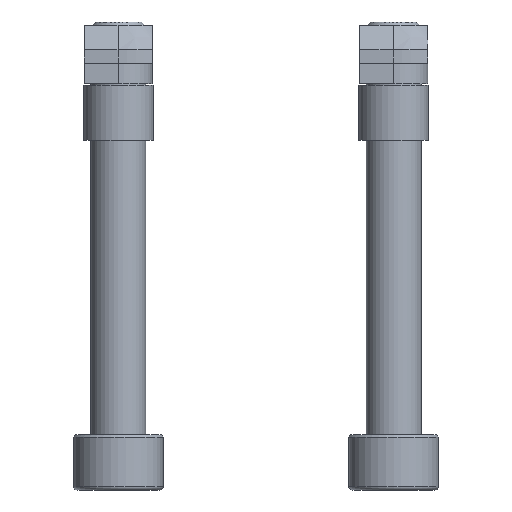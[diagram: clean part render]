
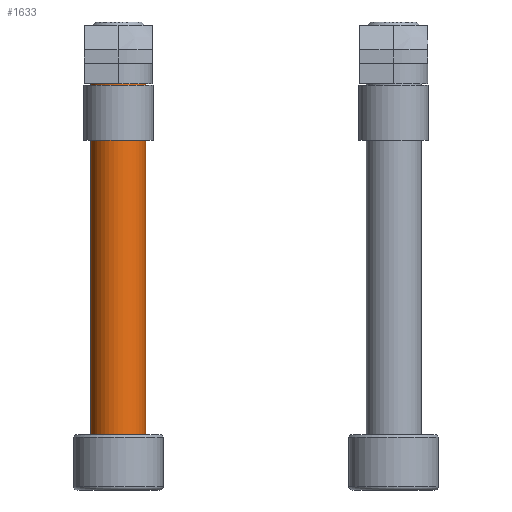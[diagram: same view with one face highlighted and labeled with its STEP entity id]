
A CAD part, front view. The second image highlights one B-rep face of the part: STEP entity #1633.
In plain terms, the highlighted cylindrical face has radius 4 mm (diameter 8 mm), a partial arc.
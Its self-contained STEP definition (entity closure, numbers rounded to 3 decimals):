
#11 = EDGE_LOOP ( 'NONE', ( #2102, #2743, #496, #1069 ) ) ;
#228 = DIRECTION ( 'NONE',  ( 0., 0., 1. ) ) ;
#307 = CARTESIAN_POINT ( 'NONE',  ( -16., 0., 3. ) ) ;
#316 = DIRECTION ( 'NONE',  ( 1., 0., 0. ) ) ;
#404 = CARTESIAN_POINT ( 'NONE',  ( -20., 0., 3. ) ) ;
#456 = CARTESIAN_POINT ( 'NONE',  ( -20., 0., 12. ) ) ;
#496 = ORIENTED_EDGE ( 'NONE', *, *, #1241, .T. ) ;
#634 = VECTOR ( 'NONE', #1700, 1000. ) ;
#658 = VECTOR ( 'NONE', #2083, 1000. ) ;
#752 = EDGE_CURVE ( 'NONE', #2421, #1815, #1024, .T. ) ;
#959 = FACE_OUTER_BOUND ( 'NONE', #11, .T. ) ;
#974 = AXIS2_PLACEMENT_3D ( 'NONE', #2230, #2214, #2184 ) ;
#998 = LINE ( 'NONE', #2593, #658 ) ;
#1024 = LINE ( 'NONE', #1374, #634 ) ;
#1069 = ORIENTED_EDGE ( 'NONE', *, *, #2101, .F. ) ;
#1172 = CARTESIAN_POINT ( 'NONE',  ( -16., 0., -48. ) ) ;
#1187 = VERTEX_POINT ( 'NONE', #1937 ) ;
#1241 = EDGE_CURVE ( 'NONE', #1187, #2681, #998, .T. ) ;
#1265 = CIRCLE ( 'NONE', #1401, 4. ) ;
#1294 = DIRECTION ( 'NONE',  ( 0., 0., -1. ) ) ;
#1374 = CARTESIAN_POINT ( 'NONE',  ( -16., 0., 12. ) ) ;
#1401 = AXIS2_PLACEMENT_3D ( 'NONE', #404, #228, #316 ) ;
#1473 = CARTESIAN_POINT ( 'NONE',  ( -24., 0., -48. ) ) ;
#1633 = ADVANCED_FACE ( 'NONE', ( #959 ), #1857, .T. ) ;
#1700 = DIRECTION ( 'NONE',  ( 0., 0., -1. ) ) ;
#1769 = EDGE_CURVE ( 'NONE', #1187, #2421, #1265, .T. ) ;
#1815 = VERTEX_POINT ( 'NONE', #1172 ) ;
#1857 = CYLINDRICAL_SURFACE ( 'NONE', #2474, 4. ) ;
#1937 = CARTESIAN_POINT ( 'NONE',  ( -24., 0., 3. ) ) ;
#2083 = DIRECTION ( 'NONE',  ( 0., 0., -1. ) ) ;
#2101 = EDGE_CURVE ( 'NONE', #1815, #2681, #2379, .T. ) ;
#2102 = ORIENTED_EDGE ( 'NONE', *, *, #752, .F. ) ;
#2184 = DIRECTION ( 'NONE',  ( -1., 0., 0. ) ) ;
#2214 = DIRECTION ( 'NONE',  ( 0., 0., -1. ) ) ;
#2230 = CARTESIAN_POINT ( 'NONE',  ( -20., 0., -48. ) ) ;
#2379 = CIRCLE ( 'NONE', #974, 4. ) ;
#2421 = VERTEX_POINT ( 'NONE', #307 ) ;
#2474 = AXIS2_PLACEMENT_3D ( 'NONE', #456, #1294, #2490 ) ;
#2490 = DIRECTION ( 'NONE',  ( -1., 0., 0. ) ) ;
#2593 = CARTESIAN_POINT ( 'NONE',  ( -24., 0., 12. ) ) ;
#2681 = VERTEX_POINT ( 'NONE', #1473 ) ;
#2743 = ORIENTED_EDGE ( 'NONE', *, *, #1769, .F. ) ;
